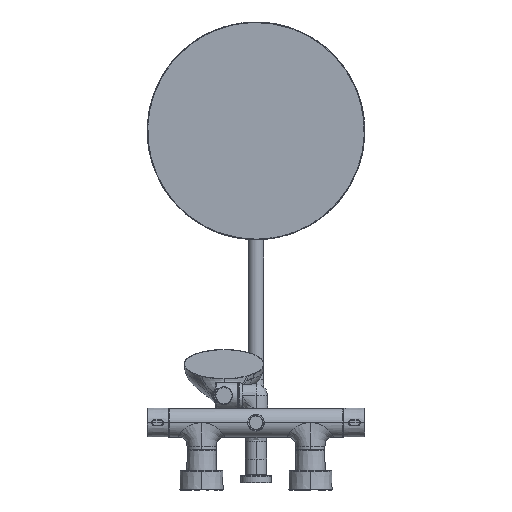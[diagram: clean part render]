
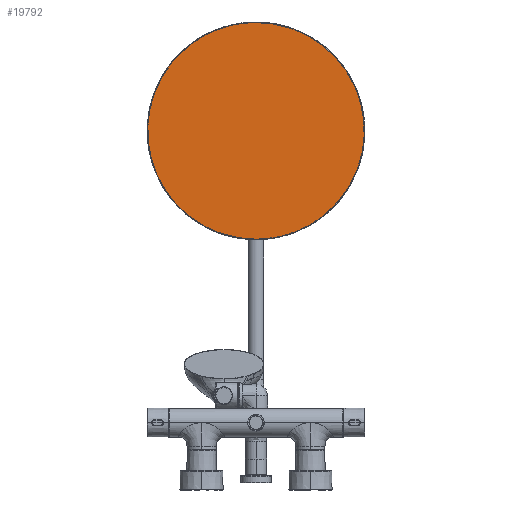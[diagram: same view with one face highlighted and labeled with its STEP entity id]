
A CAD part, front view. The second image highlights one B-rep face of the part: STEP entity #19792.
In plain terms, the highlighted planar face has unit normal (0, -1, 0).
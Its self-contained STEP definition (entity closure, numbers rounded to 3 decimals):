
#1067 = EDGE_CURVE ( 'NONE', #13734, #31581, #11352, .T. ) ;
#4867 = CARTESIAN_POINT ( 'NONE',  ( 0., 1112.297, 551.199 ) ) ;
#5423 = CARTESIAN_POINT ( 'NONE',  ( -0.655, 1112.297, 252.803 ) ) ;
#6914 = CARTESIAN_POINT ( 'NONE',  ( 0.437, 1112.297, 551.198 ) ) ;
#7968 = VERTEX_POINT ( 'NONE', #16773 ) ;
#8392 = CARTESIAN_POINT ( 'NONE',  ( 0., 1112.297, 252.801 ) ) ;
#9064 = EDGE_CURVE ( 'NONE', #31581, #32898, #30466, .T. ) ;
#11352 =( BOUNDED_CURVE ( )  B_SPLINE_CURVE ( 3, ( #31058, #35986, #36129, #5423 ),
 .UNSPECIFIED., .F., .T. ) 
 B_SPLINE_CURVE_WITH_KNOTS ( ( 4, 4 ),
 ( 0., 0.001 ),
 .UNSPECIFIED. ) 
 CURVE ( )  GEOMETRIC_REPRESENTATION_ITEM ( )  RATIONAL_B_SPLINE_CURVE ( ( 1., 1., 1., 1. ) ) 
 REPRESENTATION_ITEM ( '' )  );
#13386 = CARTESIAN_POINT ( 'NONE',  ( 0., 1112.297, 551.199 ) ) ;
#13641 = CARTESIAN_POINT ( 'NONE',  ( 297.093, 1112.297, 252.801 ) ) ;
#13734 = VERTEX_POINT ( 'NONE', #8392 ) ;
#14073 = PLANE ( 'NONE',  #18263 ) ;
#14092 =( BOUNDED_CURVE ( )  B_SPLINE_CURVE ( 3, ( #41571, #34726, #6914, #27767 ),
 .UNSPECIFIED., .F., .F. ) 
 B_SPLINE_CURVE_WITH_KNOTS ( ( 4, 4 ),
 ( 0., 0.001 ),
 .UNSPECIFIED. ) 
 CURVE ( )  GEOMETRIC_REPRESENTATION_ITEM ( )  RATIONAL_B_SPLINE_CURVE ( ( 1., 1., 1., 1. ) ) 
 REPRESENTATION_ITEM ( '' )  );
#14223 = DIRECTION ( 'NONE',  ( 0., -1., 0. ) ) ;
#15490 = CARTESIAN_POINT ( 'NONE',  ( -297.745, 1112.297, 254.107 ) ) ;
#16556 = CARTESIAN_POINT ( 'NONE',  ( -0.655, 1112.297, 252.803 ) ) ;
#16773 = CARTESIAN_POINT ( 'NONE',  ( 0.655, 1112.297, 551.197 ) ) ;
#16966 = EDGE_LOOP ( 'NONE', ( #29505, #30044, #42823, #18390 ) ) ;
#17507 = FACE_OUTER_BOUND ( 'NONE', #16966, .T. ) ;
#18263 = AXIS2_PLACEMENT_3D ( 'NONE', #21555, #14223, #35363 ) ;
#18390 = ORIENTED_EDGE ( 'NONE', *, *, #38242, .F. ) ;
#19763 = CARTESIAN_POINT ( 'NONE',  ( -0.655, 1112.297, 252.803 ) ) ;
#19792 = ADVANCED_FACE ( 'NONE', ( #17507 ), #14073, .T. ) ;
#21555 = CARTESIAN_POINT ( 'NONE',  ( 0., 1112.297, 402. ) ) ;
#25462 = EDGE_CURVE ( 'NONE', #32898, #7968, #14092, .T. ) ;
#27767 = CARTESIAN_POINT ( 'NONE',  ( 0.655, 1112.297, 551.197 ) ) ;
#29505 = ORIENTED_EDGE ( 'NONE', *, *, #25462, .F. ) ;
#30044 = ORIENTED_EDGE ( 'NONE', *, *, #9064, .F. ) ;
#30466 =( BOUNDED_CURVE ( )  B_SPLINE_CURVE ( 3, ( #19763, #15490, #40597, #13386 ),
 .UNSPECIFIED., .F., .F. ) 
 B_SPLINE_CURVE_WITH_KNOTS ( ( 4, 4 ),
 ( 0.001, 1. ),
 .UNSPECIFIED. ) 
 CURVE ( )  GEOMETRIC_REPRESENTATION_ITEM ( )  RATIONAL_B_SPLINE_CURVE ( ( 1., 0.335, 0.335, 1. ) ) 
 REPRESENTATION_ITEM ( '' )  );
#31058 = CARTESIAN_POINT ( 'NONE',  ( 0., 1112.297, 252.801 ) ) ;
#31171 = CARTESIAN_POINT ( 'NONE',  ( 297.745, 1112.297, 549.893 ) ) ;
#31581 = VERTEX_POINT ( 'NONE', #16556 ) ;
#32835 =( BOUNDED_CURVE ( )  B_SPLINE_CURVE ( 3, ( #41484, #31171, #13641, #37829 ),
 .UNSPECIFIED., .F., .F. ) 
 B_SPLINE_CURVE_WITH_KNOTS ( ( 4, 4 ),
 ( 0.001, 1. ),
 .UNSPECIFIED. ) 
 CURVE ( )  GEOMETRIC_REPRESENTATION_ITEM ( )  RATIONAL_B_SPLINE_CURVE ( ( 1., 0.335, 0.335, 1. ) ) 
 REPRESENTATION_ITEM ( '' )  );
#32898 = VERTEX_POINT ( 'NONE', #4867 ) ;
#34726 = CARTESIAN_POINT ( 'NONE',  ( 0.218, 1112.297, 551.199 ) ) ;
#35363 = DIRECTION ( 'NONE',  ( 0., 0., -1. ) ) ;
#35986 = CARTESIAN_POINT ( 'NONE',  ( -0.218, 1112.297, 252.801 ) ) ;
#36129 = CARTESIAN_POINT ( 'NONE',  ( -0.437, 1112.297, 252.802 ) ) ;
#37829 = CARTESIAN_POINT ( 'NONE',  ( 0., 1112.297, 252.801 ) ) ;
#38242 = EDGE_CURVE ( 'NONE', #7968, #13734, #32835, .T. ) ;
#40597 = CARTESIAN_POINT ( 'NONE',  ( -297.093, 1112.297, 551.199 ) ) ;
#41484 = CARTESIAN_POINT ( 'NONE',  ( 0.655, 1112.297, 551.197 ) ) ;
#41571 = CARTESIAN_POINT ( 'NONE',  ( 0., 1112.297, 551.199 ) ) ;
#42823 = ORIENTED_EDGE ( 'NONE', *, *, #1067, .F. ) ;
